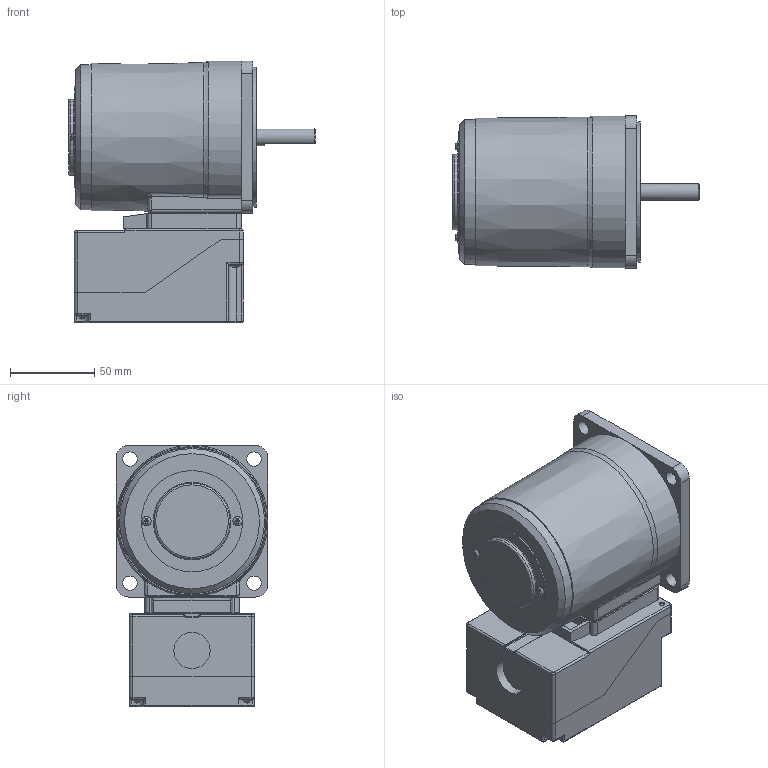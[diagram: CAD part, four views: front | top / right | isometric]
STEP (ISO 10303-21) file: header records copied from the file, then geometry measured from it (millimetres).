
FILE_DESCRIPTION(/* description */ (''),/* implementation_level */ '2;1');
FILE_NAME(/* name */ 'E:\도면작업\2016\0704) 미주향 SG 도면\3D MOTOR\TERMINAL BOX TYPE\REVERSIBLE TERMINAL BOX\SG9R40D_-T2.stp',/* time_stamp */ '2017-01-24T11:22:26+09:00',/* author */ ('jy-jung'),/* organization */ (''),/* preprocessor_version */ 'ST-DEVELOPER v15.6',/* originating_system */ 'Autodesk Inventor 2015',/* authorisation */ '');
FILE_SCHEMA (('AUTOMOTIVE_DESIGN { 1 0 10303 214 3 1 1 }'));
Length unit declared in the file: millimetre
Products named in the file (1): 부품1
Bounding box: 146.3 x 90 x 155 mm (x, y, z)
Volume: 792863.1 mm3; surface area: 134479.4 mm2
Topology: 1 solids, 8 shells, 901 faces, 2375 edges, 1517 vertices
Faces by surface type: plane 478, cylinder 300, bspline 53, torus 38, cone 20, sphere 12
Full cylindrical faces by diameter (mm): 2.5 x4, 3 x6, 3.2 x3, 3.4 x1, 3.5 x2, 4.2 x1, 4.5 x8, 5.5 x8, 5.6 x2, 6.9 x4, 8.5 x4, 10 x1, 21.5 x1, 40 x1, 43 x1, 45 x1, 60 x1, 83 x1, 86 x1
Entity records: 29936 total; most frequent: CARTESIAN_POINT 7197, DIRECTION 4496, ORIENTED_EDGE 4482, EDGE_CURVE 2241, AXIS2_PLACEMENT_3D 1586, VERTEX_POINT 1497, LINE 1324, VECTOR 1324
